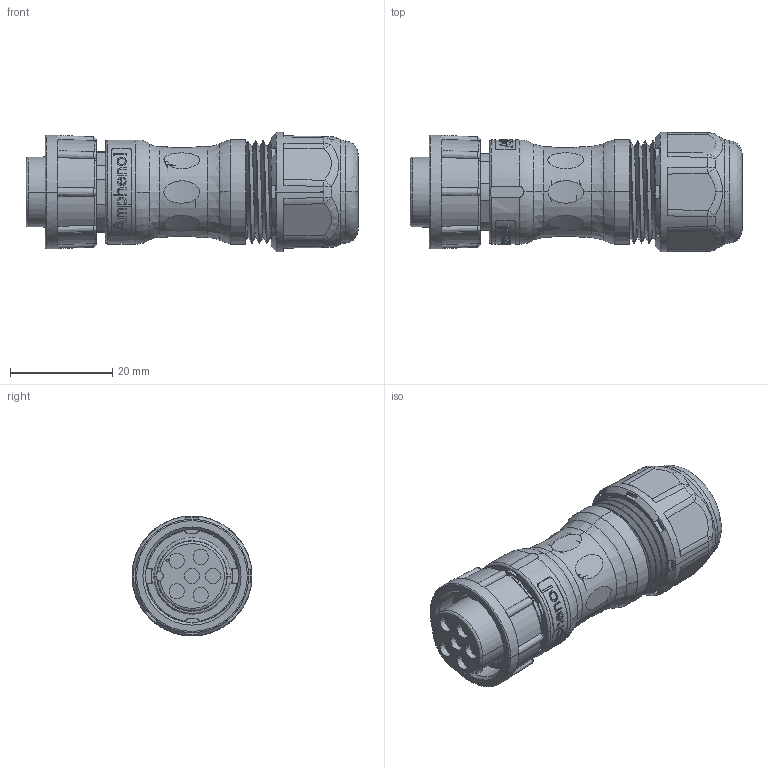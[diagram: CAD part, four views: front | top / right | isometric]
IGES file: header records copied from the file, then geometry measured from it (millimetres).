
Start section:  PTC IGES file: acb-06bffc-ll7.igs
Global section: file name: acb-06bffc-ll7.igs; native system: Creo Parametric by Parametric Technology Corporation; preprocessor: 2013050; author: K170013; organization: Unknown; date: 20190513.180251; units: millimetre
Bounding box: 65 x 23.48 x 23.48 mm (x, y, z)
Surface area: 11171.4 mm2 (no closed solid volume)
Topology: 0 solids, 0 shells, 828 faces, 4564 edges, 4561 vertices
Faces by surface type: bspline 350, revolution 247, extrusion 231
